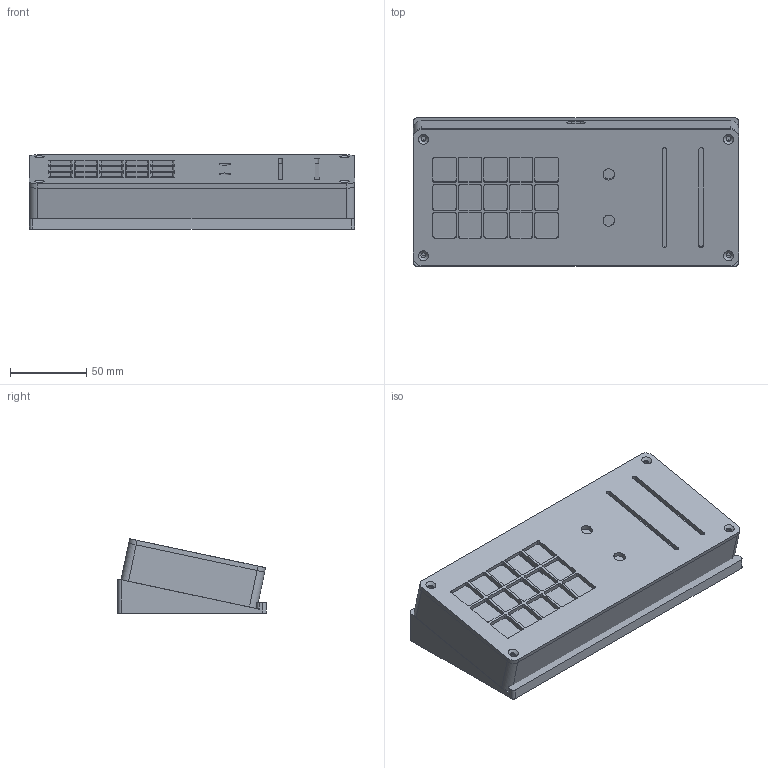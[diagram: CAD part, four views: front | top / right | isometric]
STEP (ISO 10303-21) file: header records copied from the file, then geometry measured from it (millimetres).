
FILE_DESCRIPTION(('Open CASCADE Model'),'2;1');
FILE_NAME('Open CASCADE Shape Model','2026-10-18T12:33:37',('Author'),( 'Open CASCADE'),'Open CASCADE STEP processor 7.9','Open CASCADE 7.9' ,'Unknown');
FILE_SCHEMA(('AUTOMOTIVE_DESIGN { 1 0 10303 214 1 1 1 1 }'));
Length unit declared in the file: millimetre
Products named in the file (5): b456f24a-caa4-11f1-a95f-02fc00000001; stand; deck; body; top_plate
Assembly tree (4 placements, depth 3):
  b456f24a-caa4-11f1-a95f-02fc00000001
    stand
    deck
      body
      top_plate
Bounding box: 213 x 97 x 48.72 mm (x, y, z)
Volume: 216363.5 mm3; surface area: 140089.1 mm2
Topology: 3 solids, 3 shells, 396 faces, 1052 edges, 700 vertices
Faces by surface type: plane 221, cylinder 116, extrusion 55, cone 4
Full cylindrical faces by diameter (mm): 3.4 x4, 4 x11, 6 x4, 6.6 x7, 7.5 x2
Entity records: 26424 total; most frequent: CARTESIAN_POINT 5247, DIRECTION 3816, VECTOR 2481, LINE 2426, ORIENTED_EDGE 2104, PCURVE 2104, DEFINITIONAL_REPRESENTATION 2104, EDGE_CURVE 1052
